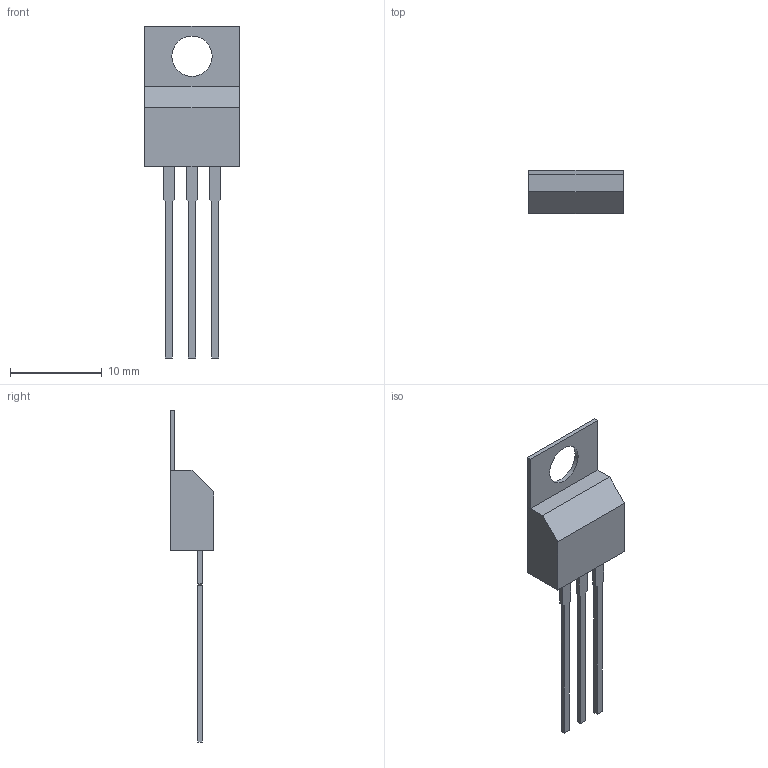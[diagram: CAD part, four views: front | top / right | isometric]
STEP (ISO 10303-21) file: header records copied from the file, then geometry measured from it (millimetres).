
FILE_DESCRIPTION(('FreeCAD Model'),'2;1');
FILE_NAME('/var/www/3D/0T/20792905.1.1.stp','2025-08-28T05:24:26',( 'Author'),(''),'Open CASCADE STEP processor 6.9','FreeCAD','Unknown' );
FILE_SCHEMA(('AUTOMOTIVE_DESIGN { 1 0 10303 214 1 1 1 1 }'));
Length unit declared in the file: millimetre
Products named in the file (4): ASSEMBLY; Tab; Body; PinsArray
Assembly tree (3 placements, depth 2):
  ASSEMBLY
    Tab
    Body
    PinsArray
Bounding box: 10.36 x 4.7 x 36.28 mm (x, y, z)
Volume: 451.7 mm3; surface area: 646.3 mm2
Topology: 5 solids, 5 shells, 44 faces, 102 edges, 68 vertices
Faces by surface type: plane 43, cylinder 1
Full cylindrical faces by diameter (mm): 4.403 x1
Entity records: 2670 total; most frequent: CARTESIAN_POINT 434, DIRECTION 402, LINE 302, VECTOR 302, ORIENTED_EDGE 204, PCURVE 204, DEFINITIONAL_REPRESENTATION 204, EDGE_CURVE 102
